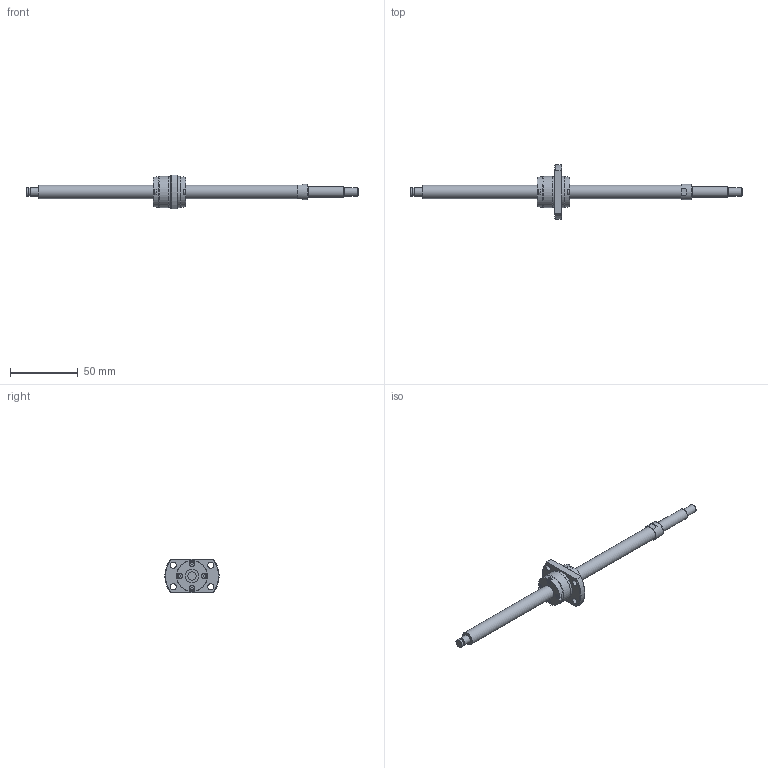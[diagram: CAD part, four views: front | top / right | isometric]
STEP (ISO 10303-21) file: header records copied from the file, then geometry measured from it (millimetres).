
FILE_DESCRIPTION(/* description */ ('STEP AP214'),/* implementation_level */ '2;1');
FILE_NAME(/* name */ 'SRT1010-187R245C7B0X(85Processing)',/* time_stamp */ '2026-08-06T15:10:43+02:00',/* author */ ('License CC BY-ND 4.0'),/* organization */ ('CADENAS'),/* preprocessor_version */ 'ST-DEVELOPER v20',/* originating_system */ 'PARTsolutions',/* authorisation */ ' ');
FILE_SCHEMA (('AUTOMOTIVE_DESIGN {1 0 10303 214 3 1 1}'));
Length unit declared in the file: millimetre
Products named in the file (3): SRT1010-187R245C7B0X(85Processing); SRT1010-187R270BCt7Processing65Shaft; SRT1010Nut
Assembly tree (2 placements, depth 2):
  SRT1010-187R245C7B0X(85Processing)
    SRT1010-187R270BCt7Processing65Shaft
    SRT1010Nut
Bounding box: 245 x 40 x 25 mm (x, y, z)
Volume: 27706.7 mm3; surface area: 12335.6 mm2
Topology: 2 solids, 2 shells, 155 faces, 367 edges, 241 vertices
Faces by surface type: plane 109, cylinder 35, cone 10, torus 1
Full cylindrical faces by diameter (mm): 3.8 x8, 4.5 x4, 5.7 x1, 6 x3, 8 x1, 10 x2, 11.5 x1, 22.5 x3, 23 x2
Entity records: 4367 total; most frequent: CARTESIAN_POINT 752, DIRECTION 738, ORIENTED_EDGE 664, EDGE_CURVE 332, AXIS2_PLACEMENT_3D 256, VERTEX_POINT 238, LINE 226, VECTOR 226
